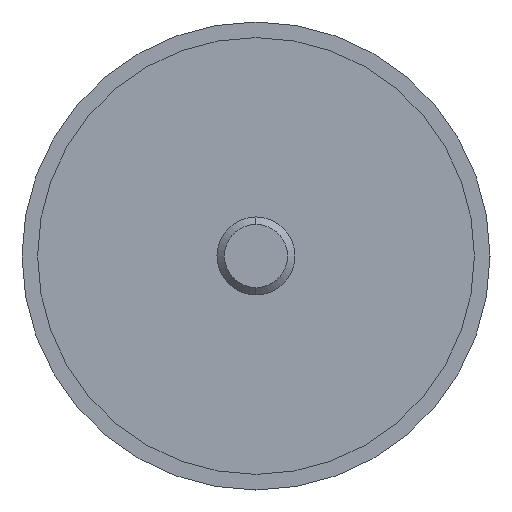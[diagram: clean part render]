
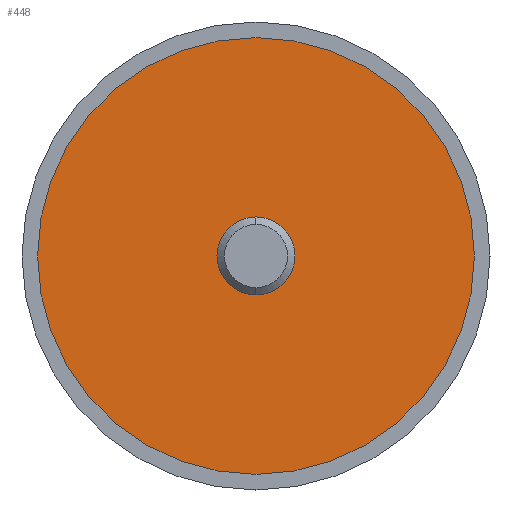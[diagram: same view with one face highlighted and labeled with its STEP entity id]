
A CAD part, left-side view. The second image highlights one B-rep face of the part: STEP entity #448.
In plain terms, the highlighted planar face has unit normal (-1, 0, 0).
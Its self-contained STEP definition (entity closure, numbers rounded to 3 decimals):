
#48 = FACE_OUTER_BOUND ( 'NONE', #254, .T. ) ;
#75 = AXIS2_PLACEMENT_3D ( 'NONE', #100, #400, #189 ) ;
#77 = AXIS2_PLACEMENT_3D ( 'NONE', #102, #95, #618 ) ;
#92 = CARTESIAN_POINT ( 'NONE',  ( -19.99, 0., 0. ) ) ;
#95 = DIRECTION ( 'NONE',  ( -1., 0., 0. ) ) ;
#100 = CARTESIAN_POINT ( 'NONE',  ( -19.99, 0., 0. ) ) ;
#102 = CARTESIAN_POINT ( 'NONE',  ( -19.99, 0., 0. ) ) ;
#107 = CIRCLE ( 'NONE', #206, 5. ) ;
#152 = EDGE_CURVE ( 'NONE', #348, #452, #421, .T. ) ;
#174 = CARTESIAN_POINT ( 'NONE',  ( -19.99, 0., 0. ) ) ;
#189 = DIRECTION ( 'NONE',  ( 0., 0., 1. ) ) ;
#193 = ORIENTED_EDGE ( 'NONE', *, *, #582, .F. ) ;
#206 = AXIS2_PLACEMENT_3D ( 'NONE', #174, #380, #621 ) ;
#254 = EDGE_LOOP ( 'NONE', ( #404, #259 ) ) ;
#259 = ORIENTED_EDGE ( 'NONE', *, *, #152, .T. ) ;
#265 = EDGE_CURVE ( 'NONE', #452, #348, #475, .T. ) ;
#295 = EDGE_LOOP ( 'NONE', ( #620, #193 ) ) ;
#314 = DIRECTION ( 'NONE',  ( 1., 0., 0. ) ) ;
#348 = VERTEX_POINT ( 'NONE', #443 ) ;
#373 = VERTEX_POINT ( 'NONE', #436 ) ;
#380 = DIRECTION ( 'NONE',  ( -1., 0., 0. ) ) ;
#386 = AXIS2_PLACEMENT_3D ( 'NONE', #92, #546, #625 ) ;
#391 = AXIS2_PLACEMENT_3D ( 'NONE', #659, #314, #518 ) ;
#400 = DIRECTION ( 'NONE',  ( -1., 0., 0. ) ) ;
#404 = ORIENTED_EDGE ( 'NONE', *, *, #265, .T. ) ;
#405 = CARTESIAN_POINT ( 'NONE',  ( -19.99, 0., 28. ) ) ;
#415 = FACE_BOUND ( 'NONE', #295, .T. ) ;
#421 = CIRCLE ( 'NONE', #75, 28. ) ;
#428 = EDGE_CURVE ( 'NONE', #471, #373, #668, .T. ) ;
#436 = CARTESIAN_POINT ( 'NONE',  ( -19.99, 0., -5. ) ) ;
#443 = CARTESIAN_POINT ( 'NONE',  ( -19.99, 0., -28. ) ) ;
#448 = ADVANCED_FACE ( 'NONE', ( #48, #415 ), #563, .F. ) ;
#452 = VERTEX_POINT ( 'NONE', #405 ) ;
#471 = VERTEX_POINT ( 'NONE', #673 ) ;
#475 = CIRCLE ( 'NONE', #386, 28. ) ;
#518 = DIRECTION ( 'NONE',  ( 0., 0., -1. ) ) ;
#546 = DIRECTION ( 'NONE',  ( -1., 0., 0. ) ) ;
#563 = PLANE ( 'NONE',  #391 ) ;
#582 = EDGE_CURVE ( 'NONE', #373, #471, #107, .T. ) ;
#618 = DIRECTION ( 'NONE',  ( 0., 0., -1. ) ) ;
#620 = ORIENTED_EDGE ( 'NONE', *, *, #428, .F. ) ;
#621 = DIRECTION ( 'NONE',  ( 0., 0., -1. ) ) ;
#625 = DIRECTION ( 'NONE',  ( 0., 0., 1. ) ) ;
#659 = CARTESIAN_POINT ( 'NONE',  ( -19.99, 28., 0. ) ) ;
#668 = CIRCLE ( 'NONE', #77, 5. ) ;
#673 = CARTESIAN_POINT ( 'NONE',  ( -19.99, 0., 5. ) ) ;
